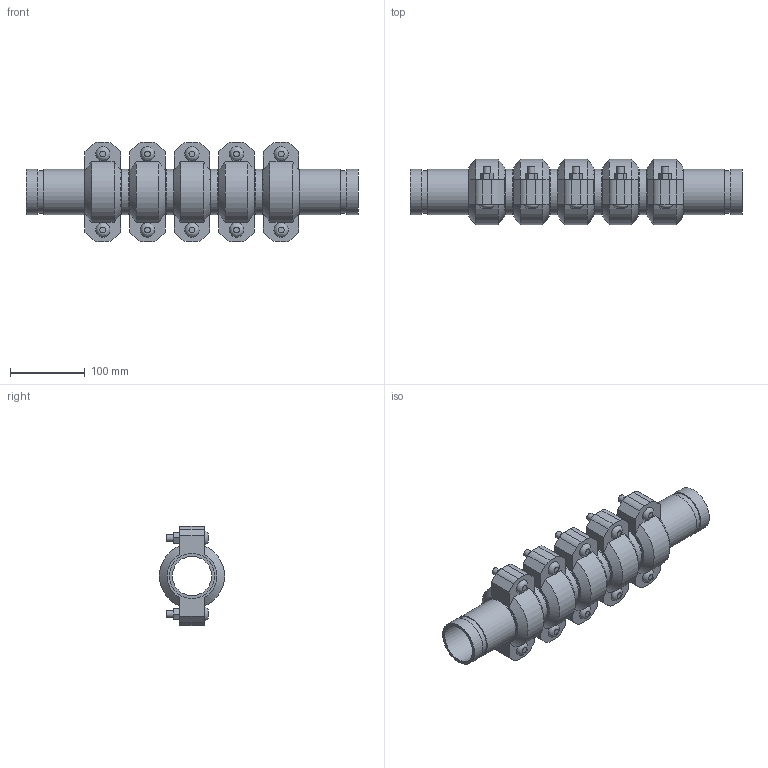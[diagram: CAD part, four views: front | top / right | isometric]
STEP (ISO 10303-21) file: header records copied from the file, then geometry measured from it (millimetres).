
FILE_DESCRIPTION(/* description */ ('VIC SS EXPANSION JOINT 5 COUPLINGS NEUTRAL STYLE 155P (OGS) (POTABLE WATER) ','CAx-IF Rec.Pracs.---Representation and Presentation of Product Manufacturing Information (PMI)---4.0---2014-10-13'),/* implementation_level */ '2;1');
FILE_NAME(/* name */ 'C:\Users\kkamble\AppData\Roaming\Autodesk\ApplicationPlugins\Victaulic.Temp\A327\Victaulic_SS_Expansion Joint_Neutral_5 Couplings_Style 155P (OGS)-Potable Water_5 Coup_Neut_2 (50).stp',/* time_stamp */ '2021-07-16T16:34:36+05:00',/* author */ ('kkamble'),/* organization */ ('Victaulic'),/* preprocessor_version */ 'ST-DEVELOPER v17.2',/* originating_system */ 'Autodesk Inventor 2019',/* authorisation */ '');
FILE_SCHEMA (('AP242_MANAGED_MODEL_BASED_3D_ENGINEERING_MIM_LF { 1 0 10303 442 1 1 4 }'));
Length unit declared in the file: inch
Products named in the file (4): 155P-02.0; Nipple-02.0; Nipple-02.0_1; 075-02.0
Assembly tree (11 placements, depth 2):
  155P-02.0
    Nipple-02.0  x2
    Nipple-02.0_1  x4
    075-02.0  x5
Bounding box: 443.74 x 87.12 x 132.59 mm (x, y, z)
Volume: 1275680.8 mm3; surface area: 366617.2 mm2
Topology: 11 solids, 21 shells, 357 faces, 845 edges, 594 vertices
Faces by surface type: plane 216, cylinder 111, cone 20, bspline 10
Full cylindrical faces by diameter (mm): 9.525 x20, 11.43 x10, 52.502 x6, 53.975 x5, 57.15 x12, 60.325 x28
Entity records: 2801 total; most frequent: CARTESIAN_POINT 495, DIRECTION 465, ORIENTED_EDGE 386, EDGE_CURVE 193, AXIS2_PLACEMENT_3D 186, VERTEX_POINT 138, EDGE_LOOP 107, LINE 93
